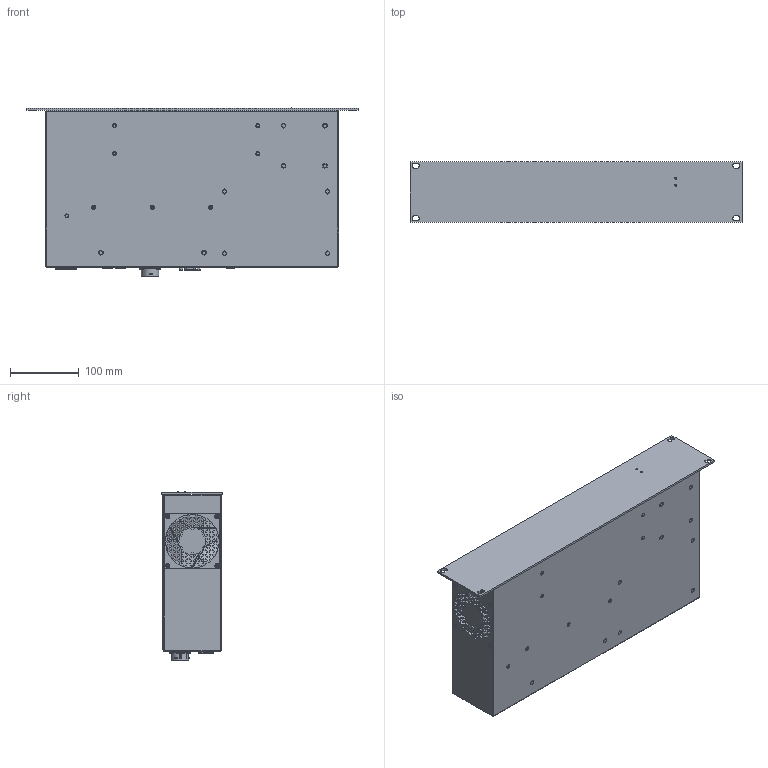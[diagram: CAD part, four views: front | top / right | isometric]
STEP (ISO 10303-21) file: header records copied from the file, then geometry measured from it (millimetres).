
FILE_DESCRIPTION (( 'STEP AP214' ), '1' );
FILE_NAME ('2352300004.STEP', '2020-08-11T10:42:06', ( '' ), ( '' ), 'SwSTEP 2.0', 'SolidWorks 2019', '' );
FILE_SCHEMA (( 'AUTOMOTIVE_DESIGN' ));
Length unit declared in the file: millimetre
Products named in the file (1): 2352300004
Bounding box: 482.6 x 88.1 x 244.41 mm (x, y, z)
Surface area: 758334.6 mm2 (no closed solid volume)
Topology: 0 solids, 193 shells, 2308 faces, 11041 edges, 8765 vertices
Faces by surface type: plane 1738, cylinder 332, cone 171, bspline 38, torus 29
Entity records: 143583 total; most frequent: CARTESIAN_POINT 31167, DIRECTION 16667, ORIENTED_EDGE 15560, EDGE_CURVE 11011, VERTEX_POINT 8765, LINE 7707, VECTOR 7707, AXIS2_PLACEMENT_3D 4480
